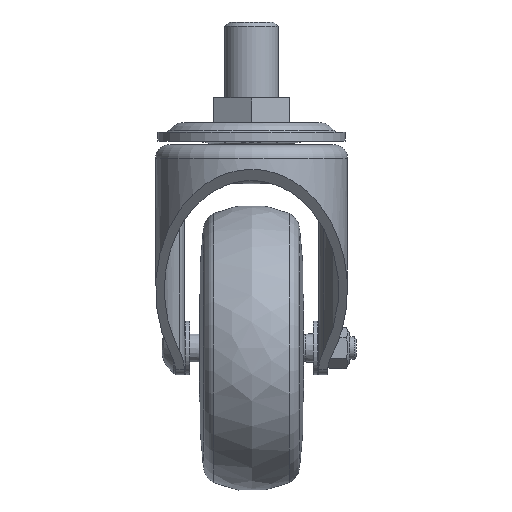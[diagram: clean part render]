
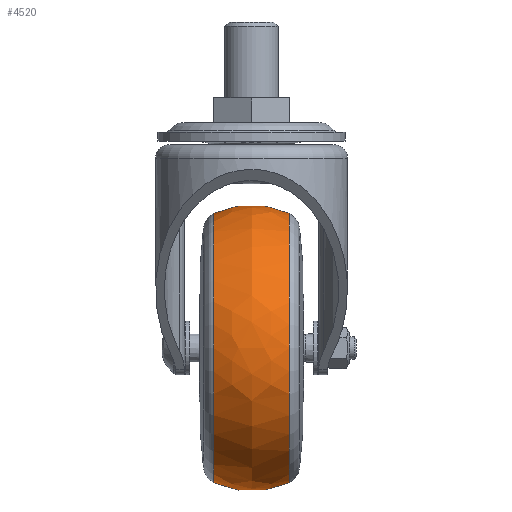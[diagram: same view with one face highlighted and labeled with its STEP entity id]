
A CAD part, left-side view. The second image highlights one B-rep face of the part: STEP entity #4520.
In plain terms, the highlighted free-form (B-spline) face has degree [2, 2] with [3, 9] control points.
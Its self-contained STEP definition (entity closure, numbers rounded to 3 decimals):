
#207=(
BOUNDED_SURFACE()
B_SPLINE_SURFACE(2,2,((#8957,#8958,#8959,#8960,#8961,#8962,#8963,#8964,
#8965),(#8966,#8967,#8968,#8969,#8970,#8971,#8972,#8973,#8974),(#8975,#8976,
#8977,#8978,#8979,#8980,#8981,#8982,#8983)),.UNSPECIFIED.,.F.,.T.,.F.)
B_SPLINE_SURFACE_WITH_KNOTS((3,3),(3,2,2,2,3),(-0.438,0.438),
(-3.142,-1.571,0.,1.571,3.142),
 .UNSPECIFIED.)
GEOMETRIC_REPRESENTATION_ITEM()
RATIONAL_B_SPLINE_SURFACE(((1.,0.707,1.,0.707,1.,
0.707,1.,0.707,1.),(0.906,0.64,
0.906,0.64,0.906,0.64,
0.906,0.64,0.906),(1.,0.707,
1.,0.707,1.,0.707,1.,0.707,1.)))
REPRESENTATION_ITEM('')
SURFACE()
);
#633=FACE_OUTER_BOUND('',#950,.T.);
#950=EDGE_LOOP('',(#4174,#4175,#4176,#4177,#4178,#4179));
#1829=CIRCLE('',#5081,30.112);
#1830=CIRCLE('',#5082,30.112);
#1841=CIRCLE('',#5099,30.112);
#1842=CIRCLE('',#5100,30.112);
#1844=CIRCLE('',#5102,20.);
#2258=VERTEX_POINT('',#8918);
#2259=VERTEX_POINT('',#8920);
#2270=VERTEX_POINT('',#8952);
#2271=VERTEX_POINT('',#8953);
#2893=EDGE_CURVE('',#2258,#2259,#1829,.T.);
#2894=EDGE_CURVE('',#2259,#2258,#1830,.T.);
#2908=EDGE_CURVE('',#2270,#2271,#1841,.T.);
#2909=EDGE_CURVE('',#2271,#2270,#1842,.T.);
#2911=EDGE_CURVE('',#2258,#2271,#1844,.T.);
#4174=ORIENTED_EDGE('',*,*,#2894,.F.);
#4175=ORIENTED_EDGE('',*,*,#2893,.F.);
#4176=ORIENTED_EDGE('',*,*,#2911,.T.);
#4177=ORIENTED_EDGE('',*,*,#2909,.T.);
#4178=ORIENTED_EDGE('',*,*,#2908,.T.);
#4179=ORIENTED_EDGE('',*,*,#2911,.F.);
#4520=ADVANCED_FACE('',(#633),#207,.F.);
#5081=AXIS2_PLACEMENT_3D('',#8921,#6300,#6301);
#5082=AXIS2_PLACEMENT_3D('',#8922,#6302,#6303);
#5099=AXIS2_PLACEMENT_3D('',#8954,#6339,#6340);
#5100=AXIS2_PLACEMENT_3D('',#8955,#6341,#6342);
#5102=AXIS2_PLACEMENT_3D('',#8984,#6345,#6346);
#6300=DIRECTION('center_axis',(-1.,0.,0.));
#6301=DIRECTION('ref_axis',(0.,0.,
-1.));
#6302=DIRECTION('center_axis',(-1.,0.,0.));
#6303=DIRECTION('ref_axis',(0.,0.,
-1.));
#6339=DIRECTION('center_axis',(-1.,0.,0.));
#6340=DIRECTION('ref_axis',(0.,0.,
-1.));
#6341=DIRECTION('center_axis',(-1.,0.,0.));
#6342=DIRECTION('ref_axis',(0.,0.,
-1.));
#6345=DIRECTION('center_axis',(0.,1.,0.));
#6346=DIRECTION('ref_axis',(0.,0.,1.));
#8918=CARTESIAN_POINT('',(-12.668,-1.656,32.642));
#8920=CARTESIAN_POINT('',(-12.668,-1.656,-27.583));
#8921=CARTESIAN_POINT('Origin',(-12.668,-1.656,2.53));
#8922=CARTESIAN_POINT('Origin',(-12.668,-1.656,2.53));
#8952=CARTESIAN_POINT('',(4.296,-1.656,-27.583));
#8953=CARTESIAN_POINT('',(4.296,-1.656,32.642));
#8954=CARTESIAN_POINT('Origin',(4.296,-1.656,2.53));
#8955=CARTESIAN_POINT('Origin',(4.296,-1.656,2.53));
#8957=CARTESIAN_POINT('Ctrl Pts',(4.296,-1.656,32.642));
#8958=CARTESIAN_POINT('Ctrl Pts',(4.296,28.456,32.642));
#8959=CARTESIAN_POINT('Ctrl Pts',(4.296,28.456,2.53));
#8960=CARTESIAN_POINT('Ctrl Pts',(4.296,28.456,-27.583));
#8961=CARTESIAN_POINT('Ctrl Pts',(4.296,-1.656,-27.583));
#8962=CARTESIAN_POINT('Ctrl Pts',(4.296,-31.768,-27.583));
#8963=CARTESIAN_POINT('Ctrl Pts',(4.296,-31.768,2.53));
#8964=CARTESIAN_POINT('Ctrl Pts',(4.296,-31.768,32.642));
#8965=CARTESIAN_POINT('Ctrl Pts',(4.296,-1.656,32.642));
#8966=CARTESIAN_POINT('Ctrl Pts',(-4.186,-1.656,36.614));
#8967=CARTESIAN_POINT('Ctrl Pts',(-4.186,32.428,36.614));
#8968=CARTESIAN_POINT('Ctrl Pts',(-4.186,32.428,2.53));
#8969=CARTESIAN_POINT('Ctrl Pts',(-4.186,32.428,-31.555));
#8970=CARTESIAN_POINT('Ctrl Pts',(-4.186,-1.656,-31.555));
#8971=CARTESIAN_POINT('Ctrl Pts',(-4.186,-35.741,-31.555));
#8972=CARTESIAN_POINT('Ctrl Pts',(-4.186,-35.741,2.53));
#8973=CARTESIAN_POINT('Ctrl Pts',(-4.186,-35.741,36.614));
#8974=CARTESIAN_POINT('Ctrl Pts',(-4.186,-1.656,36.614));
#8975=CARTESIAN_POINT('Ctrl Pts',(-12.668,-1.656,32.642));
#8976=CARTESIAN_POINT('Ctrl Pts',(-12.668,28.456,32.642));
#8977=CARTESIAN_POINT('Ctrl Pts',(-12.668,28.456,2.53));
#8978=CARTESIAN_POINT('Ctrl Pts',(-12.668,28.456,-27.583));
#8979=CARTESIAN_POINT('Ctrl Pts',(-12.668,-1.656,-27.583));
#8980=CARTESIAN_POINT('Ctrl Pts',(-12.668,-31.768,-27.583));
#8981=CARTESIAN_POINT('Ctrl Pts',(-12.668,-31.768,2.53));
#8982=CARTESIAN_POINT('Ctrl Pts',(-12.668,-31.768,32.642));
#8983=CARTESIAN_POINT('Ctrl Pts',(-12.668,-1.656,32.642));
#8984=CARTESIAN_POINT('Origin',(-4.186,-1.656,14.53));
